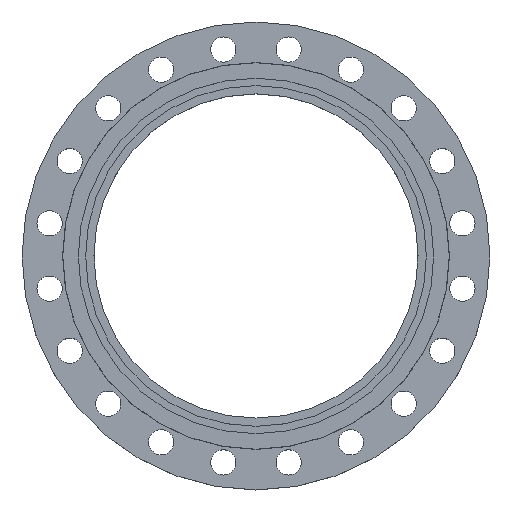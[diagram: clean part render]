
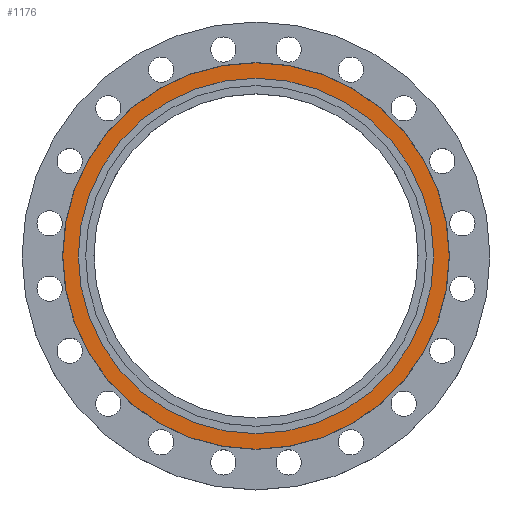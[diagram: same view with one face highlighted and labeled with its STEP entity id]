
A CAD part, top view. The second image highlights one B-rep face of the part: STEP entity #1176.
In plain terms, the highlighted planar face has unit normal (0, 0, 1).
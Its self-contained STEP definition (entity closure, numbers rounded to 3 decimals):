
#168 = DIRECTION ( 'NONE',  ( -1., 0., 0. ) ) ;
#173 = DIRECTION ( 'NONE',  ( 0., 0., -1. ) ) ;
#179 = CARTESIAN_POINT ( 'NONE',  ( 0., 0., 0. ) ) ;
#218 = CARTESIAN_POINT ( 'NONE',  ( -367.5, 0., 0. ) ) ;
#227 = CARTESIAN_POINT ( 'NONE',  ( -338., 0., 0. ) ) ;
#433 = CARTESIAN_POINT ( 'NONE',  ( 0., 0., 0. ) ) ;
#436 = DIRECTION ( 'NONE',  ( 1., 0., 0. ) ) ;
#437 = DIRECTION ( 'NONE',  ( 0., 0., 1. ) ) ;
#438 = CARTESIAN_POINT ( 'NONE',  ( 0., 0., 0. ) ) ;
#440 = PLANE ( 'NONE',  #630 ) ;
#441 = FACE_BOUND ( 'NONE', #1887, .T. ) ;
#442 = FACE_OUTER_BOUND ( 'NONE', #1910, .T. ) ;
#444 = CARTESIAN_POINT ( 'NONE',  ( 367.5, 0., 0. ) ) ;
#491 = DIRECTION ( 'NONE',  ( -1., 0., 0. ) ) ;
#500 = DIRECTION ( 'NONE',  ( 0., 0., -1. ) ) ;
#630 = AXIS2_PLACEMENT_3D ( 'NONE', #438, #437, #436 ) ;
#652 = CARTESIAN_POINT ( 'NONE',  ( 0., 0., 0. ) ) ;
#687 = DIRECTION ( 'NONE',  ( 0., 0., -1. ) ) ;
#692 = DIRECTION ( 'NONE',  ( -1., 0., 0. ) ) ;
#747 = CIRCLE ( 'NONE', #1210, 367.5 ) ;
#793 = AXIS2_PLACEMENT_3D ( 'NONE', #652, #687, #692 ) ;
#1046 = CIRCLE ( 'NONE', #793, 338. ) ;
#1080 = CARTESIAN_POINT ( 'NONE',  ( 0., 0., 0. ) ) ;
#1088 = DIRECTION ( 'NONE',  ( 0., 0., -1. ) ) ;
#1100 = DIRECTION ( 'NONE',  ( -1., 0., 0. ) ) ;
#1176 = ADVANCED_FACE ( 'NONE', ( #442, #441 ), #440, .T. ) ;
#1210 = AXIS2_PLACEMENT_3D ( 'NONE', #433, #500, #491 ) ;
#1240 = ORIENTED_EDGE ( 'NONE', *, *, #1751, .T. ) ;
#1245 = ORIENTED_EDGE ( 'NONE', *, *, #1963, .T. ) ;
#1249 = ORIENTED_EDGE ( 'NONE', *, *, #1555, .F. ) ;
#1250 = ORIENTED_EDGE ( 'NONE', *, *, #1882, .F. ) ;
#1436 = CARTESIAN_POINT ( 'NONE',  ( 338., 0., 0. ) ) ;
#1480 = VERTEX_POINT ( 'NONE', #218 ) ;
#1502 = CIRCLE ( 'NONE', #1961, 338. ) ;
#1555 = EDGE_CURVE ( 'NONE', #1857, #1480, #1846, .T. ) ;
#1751 = EDGE_CURVE ( 'NONE', #1798, #1847, #1046, .T. ) ;
#1798 = VERTEX_POINT ( 'NONE', #1436 ) ;
#1846 = CIRCLE ( 'NONE', #1850, 367.5 ) ;
#1847 = VERTEX_POINT ( 'NONE', #227 ) ;
#1850 = AXIS2_PLACEMENT_3D ( 'NONE', #179, #173, #168 ) ;
#1857 = VERTEX_POINT ( 'NONE', #444 ) ;
#1882 = EDGE_CURVE ( 'NONE', #1480, #1857, #747, .T. ) ;
#1887 = EDGE_LOOP ( 'NONE', ( #1245, #1240 ) ) ;
#1910 = EDGE_LOOP ( 'NONE', ( #1250, #1249 ) ) ;
#1961 = AXIS2_PLACEMENT_3D ( 'NONE', #1080, #1088, #1100 ) ;
#1963 = EDGE_CURVE ( 'NONE', #1847, #1798, #1502, .T. ) ;
